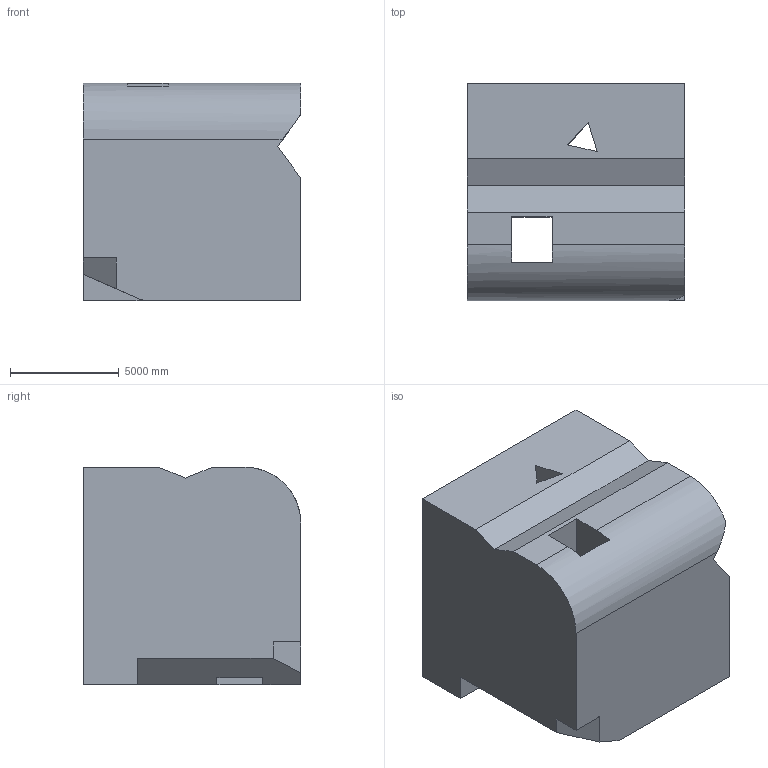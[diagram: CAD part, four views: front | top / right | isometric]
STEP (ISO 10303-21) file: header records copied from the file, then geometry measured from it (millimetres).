
FILE_DESCRIPTION (( 'STEP AP203' ), '1' );
FILE_NAME ('1685.STEP', '2022-08-19T11:42:47', ( 'user' ), ( '' ), 'SwSTEP 2.0', 'SolidWorks 2021', '' );
FILE_SCHEMA (( 'CONFIG_CONTROL_DESIGN' ));
Length unit declared in the file: centimetre
Products named in the file (1): 1685
Bounding box: 10000 x 10000 x 10000 mm (x, y, z)
Volume: 903171144351.7 mm3; surface area: 693203463.4 mm2
Topology: 1 solids, 1 shells, 24 faces, 72 edges, 48 vertices
Faces by surface type: plane 23, cylinder 1
Entity records: 885 total; most frequent: CARTESIAN_POINT 148, ORIENTED_EDGE 144, DIRECTION 125, EDGE_CURVE 72, LINE 67, VECTOR 67, VERTEX_POINT 48, AXIS2_PLACEMENT_3D 29
